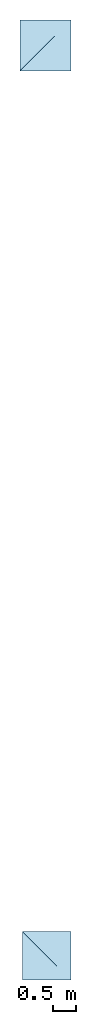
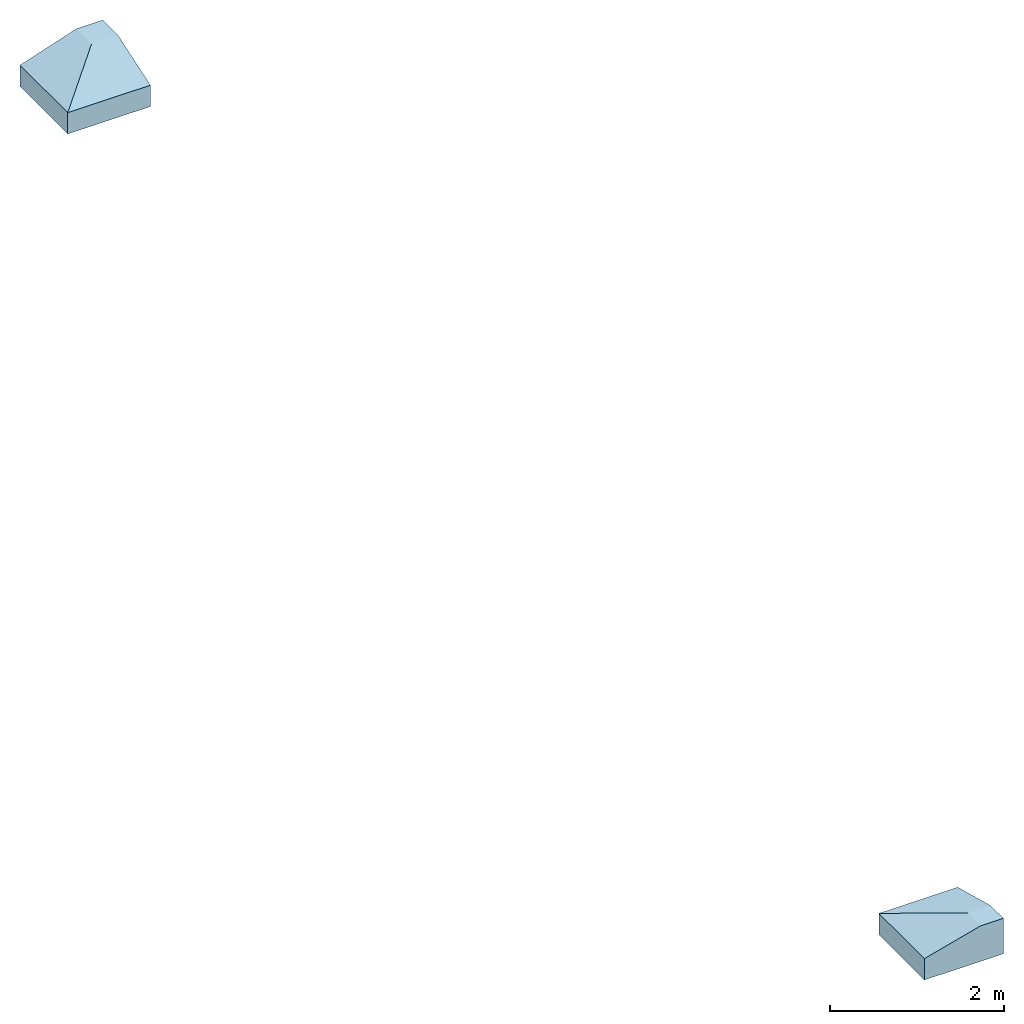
# One storey: 2 footings.
"""IFC4 building model written with IfcOpenShell, lengths in centimetres."""

from ifc_helpers import new_model, si_unit, derived_unit, frame, origin_with_axes, place, context, project, spatial, faceted_brep, material, element, save


model = new_model("IFC4")

# Units and contexts
model_context = context("Model", 3, precision=1e-05, world=origin_with_axes(), identifier="Body")
ifc_project = project(units=[si_unit("LENGTHUNIT", "METRE", prefix="CENTI"), si_unit("VOLUMEUNIT", "CUBIC_METRE"), si_unit("AREAUNIT", "SQUARE_METRE"), si_unit("POWERUNIT", "WATT"), si_unit("LUMINOUSFLUXUNIT", "LUMEN"), si_unit("ELECTRICCURRENTUNIT", "AMPERE"), si_unit("PRESSUREUNIT", "PASCAL", prefix="KILO"), si_unit("MASSUNIT", "GRAM", prefix="KILO"), si_unit("PLANEANGLEUNIT", "RADIAN"), derived_unit("VOLUMETRICFLOWRATEUNIT", [(si_unit("LENGTHUNIT", "METRE"), 3), (si_unit("TIMEUNIT", "SECOND"), -1)])], contexts=[model_context])

# Site, building, storey
site_placement = place(None, origin_with_axes())
site = spatial("IfcSite", under=ifc_project, at=site_placement)
building_placement = place(site_placement, frame((0.0, 0.0, -295.0)))
building = spatial("IfcBuilding", under=site, at=building_placement)
storey_placement = place(building_placement, origin_with_axes())
storey = spatial("IfcBuildingStorey", under=building, at=storey_placement, Name="FUNDAÇÃO", CompositionType="ELEMENT", Elevation=-295.0)

# Footings
ifc_material = material(Name="Concreto")
footing_1_placement = place(storey_placement, frame((3961.76, -5159.55, 10.0), z_axis=(0.0, 0.0, 1.0), x_axis=(1.0, 0.0, 0.0)))
element("IfcFooting", 1, at=footing_1_placement, inside=storey, material=ifc_material, Name="P10", PredefinedType="PAD_FOOTING", context=model_context, shape_type="SolidModel", body=[
    faceted_brep([(55.0, 55.0, -55.0), (55.0, -55.0, -55.0), (-55.0, -55.0, -55.0), (-55.0, 55.0, -55.0), (-55.0, 55.0, -25.0), (-55.0, -55.0, -25.0), (55.0, -55.0, -25.0), (55.0, 55.0, -25.0)], [[[0, 1, 2, 3]], [[4, 5, 6, 7]], [[4, 3, 5]], [[3, 2, 5]], [[5, 2, 6]], [[2, 1, 6]], [[6, 1, 7]], [[1, 0, 7]], [[7, 0, 4]], [[0, 3, 4]]]),
    faceted_brep([(55.0, 55.0, -25.0), (55.0, -55.0, -25.0), (-55.0, -55.0, -25.0), (-55.0, 55.0, -25.0), (20.0, 55.0, 0.0), (20.0, 20.0, 0.0), (55.0, 20.0, 0.0), (55.0, 55.0, 0.0)], [[[0, 1, 2, 3]], [[4, 5, 6, 7]], [[4, 3, 5]], [[3, 2, 5]], [[5, 2, 6]], [[2, 1, 6]], [[6, 1, 7]], [[1, 0, 7]], [[7, 0, 4]], [[0, 3, 4]]]),
])
footing_2_placement = place(storey_placement, frame((3964.26, -7126.81, 5.0), z_axis=(0.0, 0.0, 1.0), x_axis=(1.0, 0.0, 0.0)))
element("IfcFooting", 2, at=footing_2_placement, inside=storey, material=ifc_material, Name="P59", PredefinedType="PAD_FOOTING", context=model_context, shape_type="SolidModel", body=[
    faceted_brep([(-52.5, -52.5, -50.0), (-52.5, 52.5, -50.0), (52.5, 52.5, -50.0), (52.5, -52.5, -50.0), (52.5, -52.5, -20.0), (52.5, 52.5, -20.0), (-52.5, 52.5, -20.0), (-52.5, -52.5, -20.0)], [[[0, 1, 2, 3]], [[4, 5, 6, 7]], [[4, 3, 5]], [[3, 2, 5]], [[5, 2, 6]], [[2, 1, 6]], [[6, 1, 7]], [[1, 0, 7]], [[7, 0, 4]], [[0, 3, 4]]]),
    faceted_brep([(-52.5, -52.5, -20.0), (-52.5, 52.5, -20.0), (52.5, 52.5, -20.0), (52.5, -52.5, -20.0), (52.5, -52.5, 0.0), (52.5, -22.5, 0.0), (22.5, -22.5, 0.0), (22.5, -52.5, 0.0)], [[[0, 1, 2, 3]], [[4, 5, 6, 7]], [[4, 3, 5]], [[3, 2, 5]], [[5, 2, 6]], [[2, 1, 6]], [[6, 1, 7]], [[1, 0, 7]], [[7, 0, 4]], [[0, 3, 4]]]),
])

save(model, "model.ifc")
